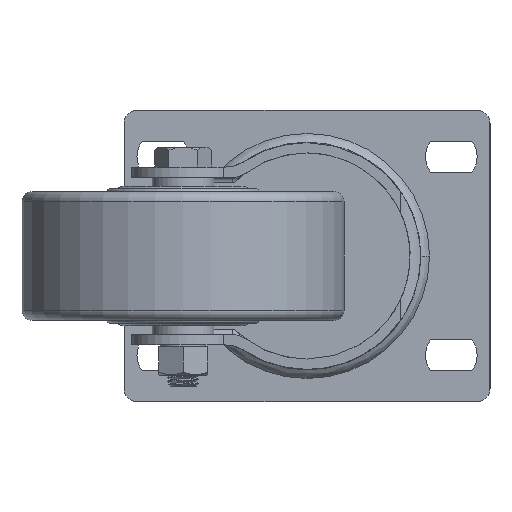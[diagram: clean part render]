
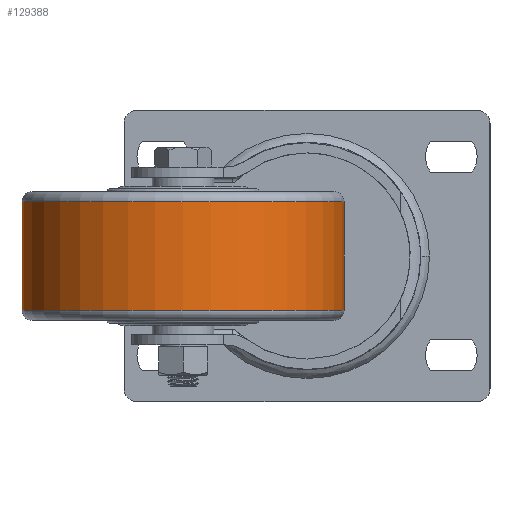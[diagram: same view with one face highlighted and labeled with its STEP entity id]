
A CAD part, front view. The second image highlights one B-rep face of the part: STEP entity #129388.
In plain terms, the highlighted cylindrical face has radius 62.5 mm (diameter 125 mm), a partial arc.
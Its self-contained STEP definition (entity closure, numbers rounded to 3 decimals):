
#4749 = DIRECTION ( 'NONE',  ( 0., 0., 1. ) ) ;
#11542 = CIRCLE ( 'NONE', #40736, 62.5 ) ;
#16331 = CARTESIAN_POINT ( 'NONE',  ( 0., 0., -21. ) ) ;
#22855 = CIRCLE ( 'NONE', #120941, 62.5 ) ;
#26321 = CARTESIAN_POINT ( 'NONE',  ( 62.5, 0., 26. ) ) ;
#27309 = LINE ( 'NONE', #26321, #102899 ) ;
#28748 = DIRECTION ( 'NONE',  ( 1., 0., 0. ) ) ;
#30692 = CYLINDRICAL_SURFACE ( 'NONE', #79841, 62.5 ) ;
#30834 = CARTESIAN_POINT ( 'NONE',  ( 62.5, 0., -21. ) ) ;
#37938 = DIRECTION ( 'NONE',  ( 1., 0., 0. ) ) ;
#40736 = AXIS2_PLACEMENT_3D ( 'NONE', #16331, #102253, #37938 ) ;
#41306 = VERTEX_POINT ( 'NONE', #30834 ) ;
#41967 = LINE ( 'NONE', #132489, #117520 ) ;
#46183 = DIRECTION ( 'NONE',  ( 0., 0., 1. ) ) ;
#51195 = EDGE_CURVE ( 'NONE', #118040, #68333, #41967, .T. ) ;
#68333 = VERTEX_POINT ( 'NONE', #126671 ) ;
#79841 = AXIS2_PLACEMENT_3D ( 'NONE', #103872, #135283, #28748 ) ;
#80800 = ORIENTED_EDGE ( 'NONE', *, *, #130929, .T. ) ;
#85475 = DIRECTION ( 'NONE',  ( 1., 0., 0. ) ) ;
#88207 = EDGE_CURVE ( 'NONE', #118040, #41306, #11542, .T. ) ;
#88272 = VERTEX_POINT ( 'NONE', #123803 ) ;
#88373 = ORIENTED_EDGE ( 'NONE', *, *, #88207, .T. ) ;
#99518 = FACE_OUTER_BOUND ( 'NONE', #100743, .T. ) ;
#100743 = EDGE_LOOP ( 'NONE', ( #137729, #88373, #80800, #137267 ) ) ;
#102253 = DIRECTION ( 'NONE',  ( 0., 0., 1. ) ) ;
#102899 = VECTOR ( 'NONE', #4749, 1000. ) ;
#103872 = CARTESIAN_POINT ( 'NONE',  ( 0., 0., 26. ) ) ;
#104066 = EDGE_CURVE ( 'NONE', #68333, #88272, #22855, .T. ) ;
#107077 = CARTESIAN_POINT ( 'NONE',  ( 0., 0., 21. ) ) ;
#107535 = DIRECTION ( 'NONE',  ( 0., 0., 1. ) ) ;
#117520 = VECTOR ( 'NONE', #46183, 1000. ) ;
#118040 = VERTEX_POINT ( 'NONE', #126820 ) ;
#120941 = AXIS2_PLACEMENT_3D ( 'NONE', #107077, #107535, #85475 ) ;
#123803 = CARTESIAN_POINT ( 'NONE',  ( 62.5, 0., 21. ) ) ;
#126671 = CARTESIAN_POINT ( 'NONE',  ( -62.5, 0., 21. ) ) ;
#126820 = CARTESIAN_POINT ( 'NONE',  ( -62.5, 0., -21. ) ) ;
#129388 = ADVANCED_FACE ( 'NONE', ( #99518 ), #30692, .T. ) ;
#130929 = EDGE_CURVE ( 'NONE', #41306, #88272, #27309, .T. ) ;
#132489 = CARTESIAN_POINT ( 'NONE',  ( -62.5, 0., 26. ) ) ;
#135283 = DIRECTION ( 'NONE',  ( 0., 0., 1. ) ) ;
#137267 = ORIENTED_EDGE ( 'NONE', *, *, #104066, .F. ) ;
#137729 = ORIENTED_EDGE ( 'NONE', *, *, #51195, .F. ) ;
